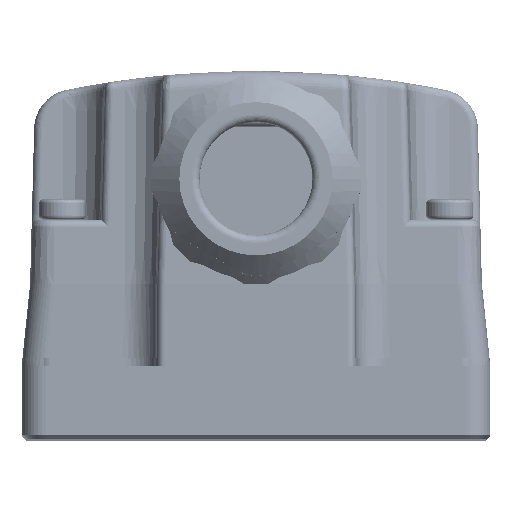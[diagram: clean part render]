
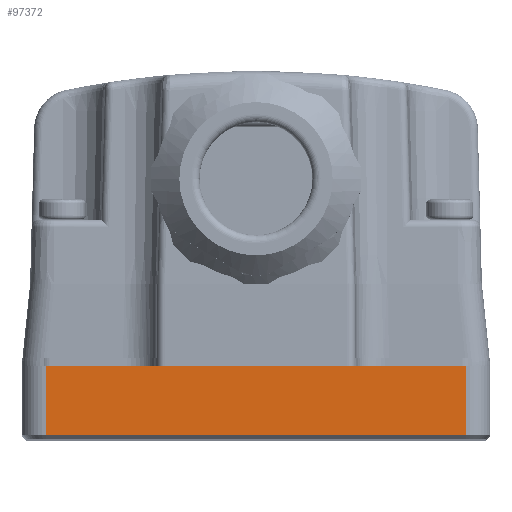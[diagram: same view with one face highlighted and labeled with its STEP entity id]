
A CAD part, top view. The second image highlights one B-rep face of the part: STEP entity #97372.
In plain terms, the highlighted planar face has unit normal (0, 0, 1).
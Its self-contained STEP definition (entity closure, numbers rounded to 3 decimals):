
#5515=DIRECTION('',(0.,1.,0.));
#5516=VECTOR('',#5515,8.5);
#5517=CARTESIAN_POINT('',(-26.,0.5,153.));
#5518=LINE('',#5517,#5516);
#5523=DIRECTION('',(-1.,0.,0.));
#5524=VECTOR('',#5523,52.);
#5525=CARTESIAN_POINT('',(26.,9.,153.));
#5526=LINE('',#5525,#5524);
#5527=DIRECTION('',(1.,0.,0.));
#5528=VECTOR('',#5527,52.);
#5529=CARTESIAN_POINT('',(-26.,0.5,153.));
#5530=LINE('',#5529,#5528);
#5535=DIRECTION('',(0.,-1.,0.));
#5536=VECTOR('',#5535,8.5);
#5537=CARTESIAN_POINT('',(26.,9.,153.));
#5538=LINE('',#5537,#5536);
#80527=CARTESIAN_POINT('',(26.,0.5,153.));
#80528=VERTEX_POINT('',#80527);
#83257=CARTESIAN_POINT('',(-26.,0.5,153.));
#83258=VERTEX_POINT('',#83257);
#86968=CARTESIAN_POINT('',(26.,9.,153.));
#86969=VERTEX_POINT('',#86968);
#88347=CARTESIAN_POINT('',(-26.,9.,153.));
#88348=VERTEX_POINT('',#88347);
#97359=CARTESIAN_POINT('',(-26.,0.5,153.));
#97360=DIRECTION('',(0.,0.,1.));
#97361=DIRECTION('',(1.,0.,0.));
#97362=AXIS2_PLACEMENT_3D('',#97359,#97360,#97361);
#97363=PLANE('',#97362);
#97364=ORIENTED_EDGE('',*,*,#97237,.F.);
#97366=ORIENTED_EDGE('',*,*,#97365,.T.);
#97368=ORIENTED_EDGE('',*,*,#97367,.F.);
#97369=ORIENTED_EDGE('',*,*,#97351,.T.);
#97370=EDGE_LOOP('',(#97364,#97366,#97368,#97369));
#97371=FACE_OUTER_BOUND('',#97370,.F.);
#97372=ADVANCED_FACE('',(#97371),#97363,.T.);
#97237=EDGE_CURVE('',#86969,#88348,#5526,.T.);
#97351=EDGE_CURVE('',#83258,#88348,#5518,.T.);
#97365=EDGE_CURVE('',#86969,#80528,#5538,.T.);
#97367=EDGE_CURVE('',#83258,#80528,#5530,.T.);
